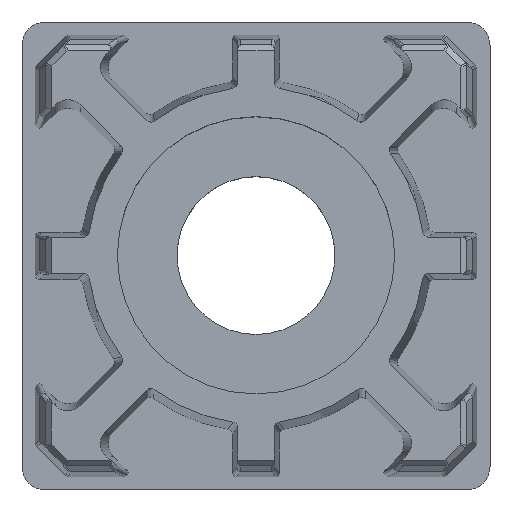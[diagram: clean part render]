
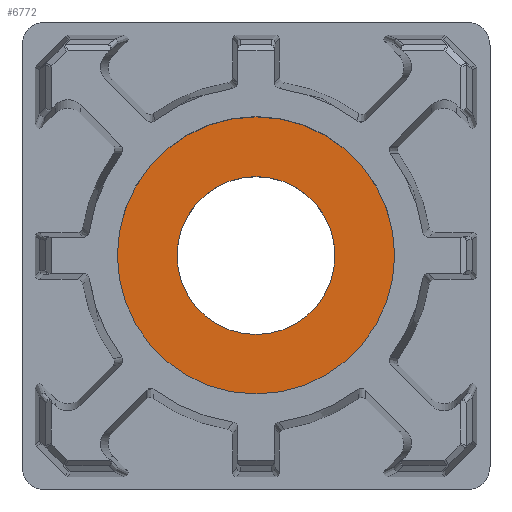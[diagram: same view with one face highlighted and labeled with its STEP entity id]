
A CAD part, top view. The second image highlights one B-rep face of the part: STEP entity #6772.
In plain terms, the highlighted planar face has unit normal (0, 0, 1).
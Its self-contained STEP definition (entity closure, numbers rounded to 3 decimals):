
#5026=EDGE_CURVE('',#10328,#9976,#11569,.F.);
#6050=EDGE_CURVE('',#9976,#10328,#12894,.F.);
#6220=EDGE_CURVE('',#12766,#13097,#13098,.T.);
#6664=EDGE_CURVE('',#13097,#12766,#13611,.T.);
#6772=ADVANCED_FACE('',(#13735,#13736),#13737,.T.);
#9976=VERTEX_POINT('',#18929);
#10328=VERTEX_POINT('',#19673);
#11569=CIRCLE('',#22179,6.75);
#12766=VERTEX_POINT('',#24462);
#12894=CIRCLE('',#24684,6.75);
#13097=VERTEX_POINT('',#25219);
#13098=CIRCLE('',#25220,11.85);
#13611=CIRCLE('',#26351,11.85);
#13735=FACE_OUTER_BOUND('',#26567,.T.);
#13736=FACE_BOUND('',#26568,.T.);
#13737=PLANE('',#26569);
#18929=CARTESIAN_POINT('',(6.75,0.0,30.5));
#19673=CARTESIAN_POINT('',(-6.75,0.,30.5));
#22179=AXIS2_PLACEMENT_3D('',#32984,#32985,#32986);
#24462=CARTESIAN_POINT('',(-11.85,0.,30.5));
#24684=AXIS2_PLACEMENT_3D('',#34994,#34995,#34996);
#25219=CARTESIAN_POINT('',(11.85,0.0,30.5));
#25220=AXIS2_PLACEMENT_3D('',#35247,#35248,#35249);
#26351=AXIS2_PLACEMENT_3D('',#35857,#35858,#35859);
#26567=EDGE_LOOP('',(#35988,#35989));
#26568=EDGE_LOOP('',(#35990,#35991));
#26569=AXIS2_PLACEMENT_3D('',#35992,#35993,#35994);
#32984=CARTESIAN_POINT('',(0.0,0.0,30.5));
#32985=DIRECTION('',(0.0,0.0,-1.0));
#32986=DIRECTION('',(1.0,0.0,0.0));
#34994=CARTESIAN_POINT('',(0.0,0.0,30.5));
#34995=DIRECTION('',(0.0,0.0,-1.0));
#34996=DIRECTION('',(1.0,0.0,0.0));
#35247=CARTESIAN_POINT('',(0.0,0.0,30.5));
#35248=DIRECTION('',(0.0,0.0,1.0));
#35249=DIRECTION('',(1.0,0.0,0.0));
#35857=CARTESIAN_POINT('',(0.0,0.0,30.5));
#35858=DIRECTION('',(0.0,0.0,1.0));
#35859=DIRECTION('',(1.0,0.0,0.0));
#35988=ORIENTED_EDGE('',*,*,#6664,.T.);
#35989=ORIENTED_EDGE('',*,*,#6220,.T.);
#35990=ORIENTED_EDGE('',*,*,#5026,.F.);
#35991=ORIENTED_EDGE('',*,*,#6050,.F.);
#35992=CARTESIAN_POINT('',(0.0,0.0,30.5));
#35993=DIRECTION('',(0.0,0.0,1.0));
#35994=DIRECTION('',(1.0,-0.0,0.0));
